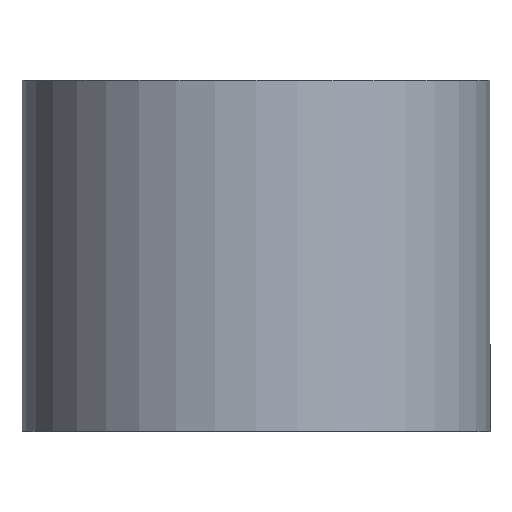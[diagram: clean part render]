
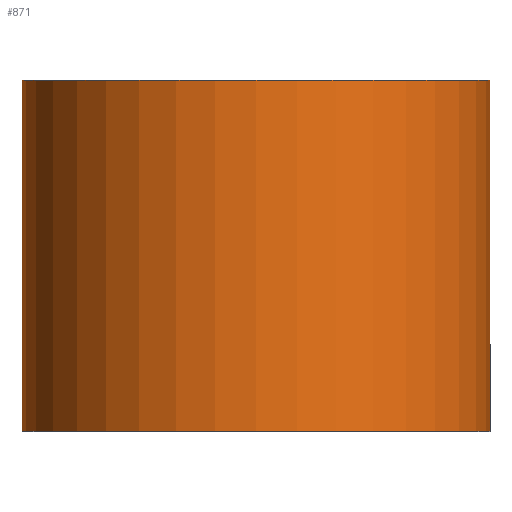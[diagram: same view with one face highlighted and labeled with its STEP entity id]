
A CAD part, top view. The second image highlights one B-rep face of the part: STEP entity #871.
In plain terms, the highlighted cylindrical face has radius 20 mm (diameter 40 mm), a partial arc.
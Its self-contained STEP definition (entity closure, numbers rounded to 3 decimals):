
#48 = ORIENTED_EDGE ( 'NONE', *, *, #161, .T. ) ;
#72 = AXIS2_PLACEMENT_3D ( 'NONE', #683, #73, #322 ) ;
#73 = DIRECTION ( 'NONE',  ( 0., 1., 0. ) ) ;
#82 = DIRECTION ( 'NONE',  ( -1., 0., 0. ) ) ;
#104 = DIRECTION ( 'NONE',  ( -1., 0., 0. ) ) ;
#154 = DIRECTION ( 'NONE',  ( 0., 1., 0. ) ) ;
#156 = CARTESIAN_POINT ( 'NONE',  ( 20., 15., 0. ) ) ;
#161 = EDGE_CURVE ( 'NONE', #423, #586, #812, .T. ) ;
#170 = VECTOR ( 'NONE', #303, 1000. ) ;
#177 = CARTESIAN_POINT ( 'NONE',  ( 0., -15., 0. ) ) ;
#180 = CARTESIAN_POINT ( 'NONE',  ( -20., -15., 0. ) ) ;
#184 = ORIENTED_EDGE ( 'NONE', *, *, #880, .F. ) ;
#251 = VECTOR ( 'NONE', #741, 1000. ) ;
#303 = DIRECTION ( 'NONE',  ( 0., 1., 0. ) ) ;
#322 = DIRECTION ( 'NONE',  ( -1., 0., 0. ) ) ;
#342 = ORIENTED_EDGE ( 'NONE', *, *, #957, .T. ) ;
#392 = EDGE_LOOP ( 'NONE', ( #48, #342, #184, #663 ) ) ;
#423 = VERTEX_POINT ( 'NONE', #180 ) ;
#469 = AXIS2_PLACEMENT_3D ( 'NONE', #177, #483, #104 ) ;
#473 = CYLINDRICAL_SURFACE ( 'NONE', #504, 20. ) ;
#483 = DIRECTION ( 'NONE',  ( 0., 1., 0. ) ) ;
#504 = AXIS2_PLACEMENT_3D ( 'NONE', #817, #154, #82 ) ;
#531 = CARTESIAN_POINT ( 'NONE',  ( 20., -15., 0. ) ) ;
#542 = FACE_OUTER_BOUND ( 'NONE', #392, .T. ) ;
#586 = VERTEX_POINT ( 'NONE', #531 ) ;
#618 = LINE ( 'NONE', #814, #251 ) ;
#637 = VERTEX_POINT ( 'NONE', #156 ) ;
#652 = EDGE_CURVE ( 'NONE', #423, #794, #618, .T. ) ;
#663 = ORIENTED_EDGE ( 'NONE', *, *, #652, .F. ) ;
#683 = CARTESIAN_POINT ( 'NONE',  ( 0., 15., 0. ) ) ;
#741 = DIRECTION ( 'NONE',  ( 0., 1., 0. ) ) ;
#789 = CIRCLE ( 'NONE', #72, 20. ) ;
#794 = VERTEX_POINT ( 'NONE', #823 ) ;
#812 = CIRCLE ( 'NONE', #469, 20. ) ;
#814 = CARTESIAN_POINT ( 'NONE',  ( -20., 0., 0. ) ) ;
#817 = CARTESIAN_POINT ( 'NONE',  ( 0., 0., 0. ) ) ;
#823 = CARTESIAN_POINT ( 'NONE',  ( -20., 15., 0. ) ) ;
#834 = LINE ( 'NONE', #955, #170 ) ;
#871 = ADVANCED_FACE ( 'NONE', ( #542 ), #473, .T. ) ;
#880 = EDGE_CURVE ( 'NONE', #794, #637, #789, .T. ) ;
#955 = CARTESIAN_POINT ( 'NONE',  ( 20., 0., 0. ) ) ;
#957 = EDGE_CURVE ( 'NONE', #586, #637, #834, .T. ) ;
